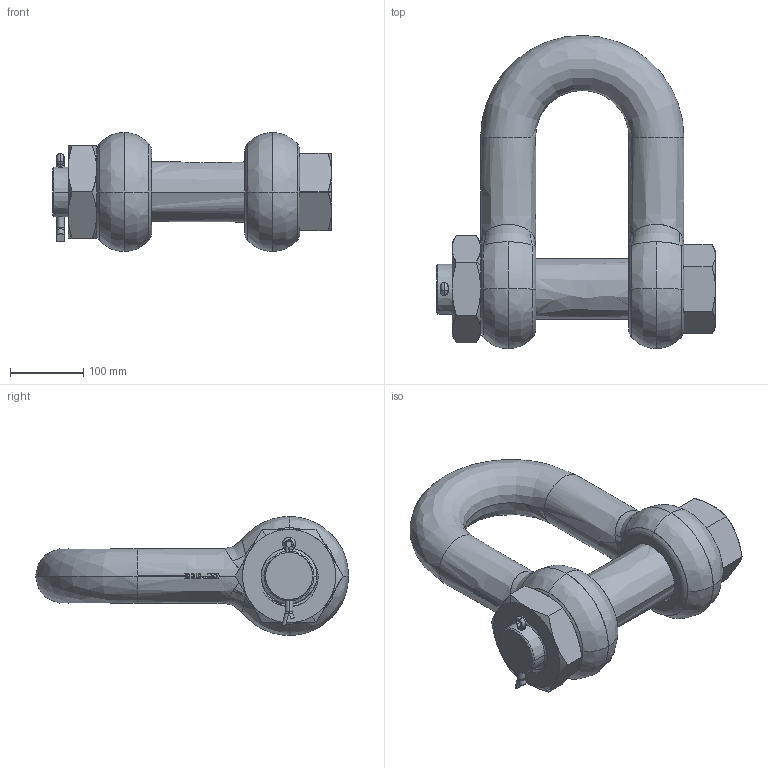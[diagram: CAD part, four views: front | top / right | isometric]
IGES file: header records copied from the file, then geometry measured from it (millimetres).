
Start section: START RECORD GO HERE.
Global section: file name: 85.igs; native system: Solidworks 2009      A Version 5 Release 17 ; preprocessor: Solidworks                 ; author: v.b.; organization: P4; date: 20090807.084304; units: millimetre
Bounding box: 380 x 426.5 x 162 mm (x, y, z)
Surface area: 462384.6 mm2 (no closed solid volume)
Topology: 0 solids, 0 shells, 753 faces, 5728 edges, 5720 vertices
Faces by surface type: bspline 359, plane 241, revolution 153
